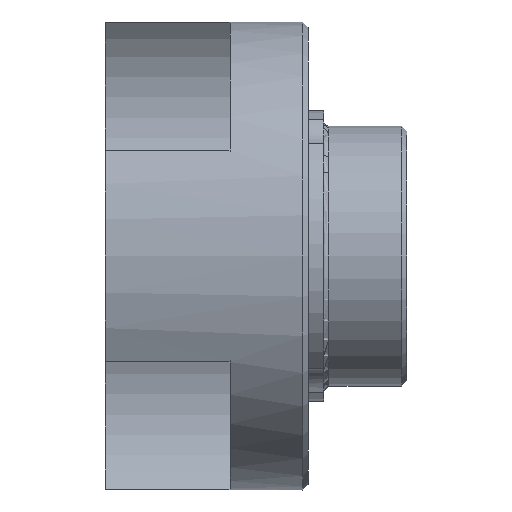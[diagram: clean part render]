
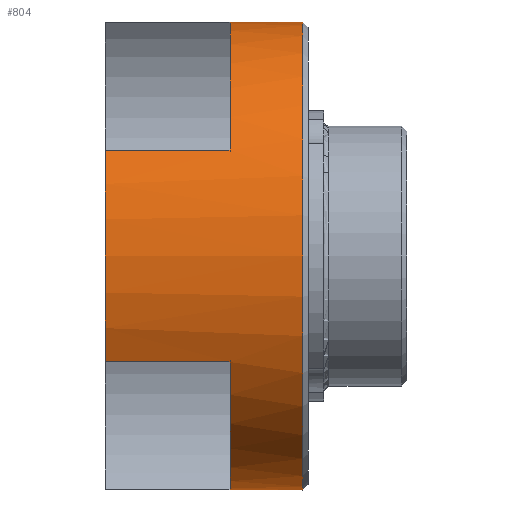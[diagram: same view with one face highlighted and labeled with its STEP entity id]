
A CAD part, front view. The second image highlights one B-rep face of the part: STEP entity #804.
In plain terms, the highlighted cylindrical face has radius 45 mm (diameter 90 mm), a full revolution.
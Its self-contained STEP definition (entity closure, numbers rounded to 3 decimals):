
#39=CYLINDRICAL_SURFACE('',#941,45.);
#104=FACE_OUTER_BOUND('',#157,.T.);
#157=EDGE_LOOP('',(#699,#700,#701,#702,#703,#704,#705,#706,#707,#708,#709,
#710,#711,#712,#713,#714,#715));
#179=LINE('',#1328,#217);
#182=LINE('',#1337,#220);
#184=LINE('',#1346,#222);
#185=LINE('',#1349,#223);
#187=LINE('',#1362,#225);
#190=LINE('',#1371,#228);
#201=LINE('',#1500,#239);
#217=VECTOR('',#1061,10.);
#220=VECTOR('',#1070,10.);
#222=VECTOR('',#1082,10.);
#223=VECTOR('',#1085,10.);
#225=VECTOR('',#1101,10.);
#228=VECTOR('',#1110,10.);
#239=VECTOR('',#1205,45.);
#249=CIRCLE('',#843,45.);
#257=CIRCLE('',#854,45.);
#263=CIRCLE('',#863,45.);
#275=CIRCLE('',#885,45.);
#281=CIRCLE('',#894,45.);
#282=CIRCLE('',#895,45.);
#285=CIRCLE('',#901,45.);
#311=CIRCLE('',#939,45.);
#312=CIRCLE('',#940,45.);
#322=VERTEX_POINT('',#1245);
#325=VERTEX_POINT('',#1250);
#330=VERTEX_POINT('',#1266);
#333=VERTEX_POINT('',#1271);
#339=VERTEX_POINT('',#1288);
#340=VERTEX_POINT('',#1290);
#352=VERTEX_POINT('',#1327);
#355=VERTEX_POINT('',#1335);
#357=VERTEX_POINT('',#1344);
#358=VERTEX_POINT('',#1348);
#361=VERTEX_POINT('',#1357);
#362=VERTEX_POINT('',#1361);
#365=VERTEX_POINT('',#1369);
#394=VERTEX_POINT('',#1494);
#395=VERTEX_POINT('',#1496);
#407=EDGE_CURVE('',#322,#325,#249,.T.);
#417=EDGE_CURVE('',#330,#333,#257,.T.);
#425=EDGE_CURVE('',#340,#339,#263,.T.);
#442=EDGE_CURVE('',#322,#352,#179,.T.);
#447=EDGE_CURVE('',#339,#355,#182,.T.);
#448=EDGE_CURVE('',#352,#355,#275,.T.);
#452=EDGE_CURVE('',#325,#357,#184,.T.);
#453=EDGE_CURVE('',#330,#358,#185,.T.);
#458=EDGE_CURVE('',#358,#361,#281,.T.);
#459=EDGE_CURVE('',#361,#357,#282,.T.);
#460=EDGE_CURVE('',#340,#362,#187,.T.);
#465=EDGE_CURVE('',#333,#365,#190,.T.);
#466=EDGE_CURVE('',#362,#365,#285,.T.);
#508=EDGE_CURVE('',#394,#395,#311,.T.);
#509=EDGE_CURVE('',#395,#394,#312,.T.);
#510=EDGE_CURVE('',#395,#361,#201,.T.);
#699=ORIENTED_EDGE('',*,*,#508,.F.);
#700=ORIENTED_EDGE('',*,*,#509,.F.);
#701=ORIENTED_EDGE('',*,*,#510,.T.);
#702=ORIENTED_EDGE('',*,*,#458,.F.);
#703=ORIENTED_EDGE('',*,*,#453,.F.);
#704=ORIENTED_EDGE('',*,*,#417,.T.);
#705=ORIENTED_EDGE('',*,*,#465,.T.);
#706=ORIENTED_EDGE('',*,*,#466,.F.);
#707=ORIENTED_EDGE('',*,*,#460,.F.);
#708=ORIENTED_EDGE('',*,*,#425,.T.);
#709=ORIENTED_EDGE('',*,*,#447,.T.);
#710=ORIENTED_EDGE('',*,*,#448,.F.);
#711=ORIENTED_EDGE('',*,*,#442,.F.);
#712=ORIENTED_EDGE('',*,*,#407,.T.);
#713=ORIENTED_EDGE('',*,*,#452,.T.);
#714=ORIENTED_EDGE('',*,*,#459,.F.);
#715=ORIENTED_EDGE('',*,*,#510,.F.);
#804=ADVANCED_FACE('',(#104),#39,.T.);
#843=AXIS2_PLACEMENT_3D('',#1252,#974,#975);
#854=AXIS2_PLACEMENT_3D('',#1273,#998,#999);
#863=AXIS2_PLACEMENT_3D('',#1291,#1018,#1019);
#885=AXIS2_PLACEMENT_3D('',#1339,#1073,#1074);
#894=AXIS2_PLACEMENT_3D('',#1358,#1095,#1096);
#895=AXIS2_PLACEMENT_3D('',#1359,#1097,#1098);
#901=AXIS2_PLACEMENT_3D('',#1373,#1113,#1114);
#939=AXIS2_PLACEMENT_3D('',#1497,#1199,#1200);
#940=AXIS2_PLACEMENT_3D('',#1498,#1201,#1202);
#941=AXIS2_PLACEMENT_3D('',#1499,#1203,#1204);
#974=DIRECTION('center_axis',(1.,0.,0.));
#975=DIRECTION('ref_axis',(0.,0.,-1.));
#998=DIRECTION('center_axis',(1.,0.,0.));
#999=DIRECTION('ref_axis',(0.,0.,-1.));
#1018=DIRECTION('center_axis',(1.,0.,0.));
#1019=DIRECTION('ref_axis',(0.,0.,-1.));
#1061=DIRECTION('',(-1.,0.,0.));
#1070=DIRECTION('',(-1.,0.,0.));
#1073=DIRECTION('center_axis',(-1.,0.,0.));
#1074=DIRECTION('ref_axis',(0.,0.,1.));
#1082=DIRECTION('',(-1.,0.,0.));
#1085=DIRECTION('',(-1.,0.,0.));
#1095=DIRECTION('center_axis',(-1.,0.,0.));
#1096=DIRECTION('ref_axis',(0.,0.,1.));
#1097=DIRECTION('center_axis',(-1.,0.,0.));
#1098=DIRECTION('ref_axis',(0.,0.,1.));
#1101=DIRECTION('',(-1.,0.,0.));
#1110=DIRECTION('',(-1.,0.,0.));
#1113=DIRECTION('center_axis',(-1.,0.,0.));
#1114=DIRECTION('ref_axis',(0.,0.,1.));
#1199=DIRECTION('center_axis',(1.,0.,0.));
#1200=DIRECTION('ref_axis',(0.,-1.,0.));
#1201=DIRECTION('center_axis',(1.,0.,0.));
#1202=DIRECTION('ref_axis',(0.,-1.,0.));
#1203=DIRECTION('center_axis',(1.,0.,0.));
#1204=DIRECTION('ref_axis',(0.,1.,0.));
#1205=DIRECTION('',(-1.,0.,0.));
#1245=CARTESIAN_POINT('',(0.,2.407,44.936));
#1250=CARTESIAN_POINT('',(0.,-40.119,20.384));
#1252=CARTESIAN_POINT('Origin',(0.,0.,0.));
#1266=CARTESIAN_POINT('',(0.,-40.119,-20.384));
#1271=CARTESIAN_POINT('',(0.,2.407,-44.936));
#1273=CARTESIAN_POINT('Origin',(0.,0.,0.));
#1288=CARTESIAN_POINT('',(0.,37.712,24.552));
#1290=CARTESIAN_POINT('',(0.,37.712,-24.552));
#1291=CARTESIAN_POINT('Origin',(0.,0.,0.));
#1327=CARTESIAN_POINT('',(-24.,2.407,44.936));
#1328=CARTESIAN_POINT('',(0.,2.407,44.936));
#1335=CARTESIAN_POINT('',(-24.,37.712,24.552));
#1337=CARTESIAN_POINT('',(0.,37.712,24.552));
#1339=CARTESIAN_POINT('Origin',(-24.,0.,0.));
#1344=CARTESIAN_POINT('',(-24.,-40.119,20.384));
#1346=CARTESIAN_POINT('',(0.,-40.119,20.384));
#1348=CARTESIAN_POINT('',(-24.,-40.119,-20.384));
#1349=CARTESIAN_POINT('',(0.,-40.119,-20.384));
#1357=CARTESIAN_POINT('',(-24.,-45.,0.));
#1358=CARTESIAN_POINT('Origin',(-24.,0.,0.));
#1359=CARTESIAN_POINT('Origin',(-24.,0.,0.));
#1361=CARTESIAN_POINT('',(-24.,37.712,-24.552));
#1362=CARTESIAN_POINT('',(0.,37.712,-24.552));
#1369=CARTESIAN_POINT('',(-24.,2.407,-44.936));
#1371=CARTESIAN_POINT('',(0.,2.407,-44.936));
#1373=CARTESIAN_POINT('Origin',(-24.,0.,0.));
#1494=CARTESIAN_POINT('',(14.,45.,0.));
#1496=CARTESIAN_POINT('',(14.,-45.,0.));
#1497=CARTESIAN_POINT('Origin',(14.,0.,0.));
#1498=CARTESIAN_POINT('Origin',(14.,0.,0.));
#1499=CARTESIAN_POINT('Origin',(7.5,0.,0.));
#1500=CARTESIAN_POINT('',(7.5,-45.,0.));
